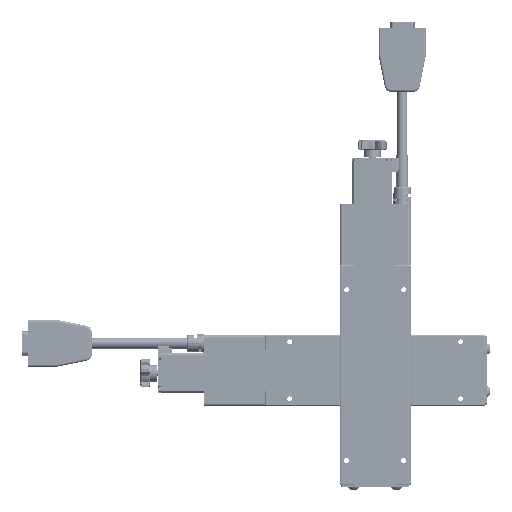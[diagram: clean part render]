
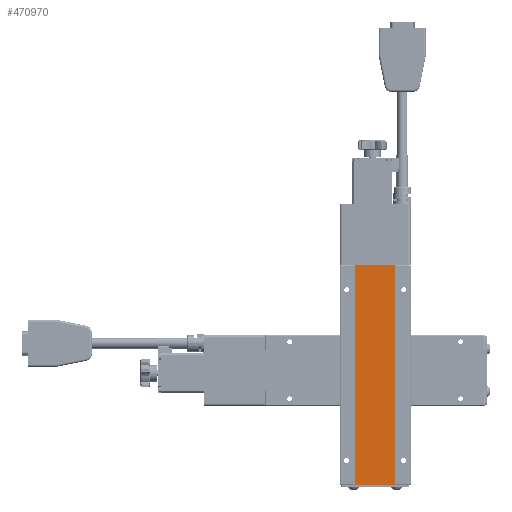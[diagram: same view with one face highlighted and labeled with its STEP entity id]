
A CAD part, front view. The second image highlights one B-rep face of the part: STEP entity #470970.
In plain terms, the highlighted planar face has unit normal (0, -1, 0).
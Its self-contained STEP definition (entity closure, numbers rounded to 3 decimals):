
#19950 = EDGE_CURVE ( 'NONE', #251373, #487911, #516954, .T. ) ;
#21911 = CARTESIAN_POINT ( 'NONE',  ( -14.3, 0.8, 0.2 ) ) ;
#36319 = DIRECTION ( 'NONE',  ( -1., 0., 0. ) ) ;
#76527 = LINE ( 'NONE', #191284, #696423 ) ;
#78190 = VERTEX_POINT ( 'NONE', #21911 ) ;
#80261 = CARTESIAN_POINT ( 'NONE',  ( -14.3, 0.8, 154.8 ) ) ;
#91121 = ORIENTED_EDGE ( 'NONE', *, *, #638685, .T. ) ;
#113370 = DIRECTION ( 'NONE',  ( 0., 0., 1. ) ) ;
#139386 = DIRECTION ( 'NONE',  ( 0., 0., -1. ) ) ;
#143350 = EDGE_CURVE ( 'NONE', #78190, #251373, #336820, .T. ) ;
#191284 = CARTESIAN_POINT ( 'NONE',  ( -14.3, 0.8, 0.2 ) ) ;
#201145 = CARTESIAN_POINT ( 'NONE',  ( -14.3, 0.8, 154.8 ) ) ;
#212038 = VERTEX_POINT ( 'NONE', #80261 ) ;
#213996 = PLANE ( 'NONE',  #625270 ) ;
#215292 = VECTOR ( 'NONE', #113370, 1000. ) ;
#237354 = EDGE_CURVE ( 'NONE', #212038, #78190, #76527, .T. ) ;
#241921 = ORIENTED_EDGE ( 'NONE', *, *, #143350, .T. ) ;
#251373 = VERTEX_POINT ( 'NONE', #561823 ) ;
#332448 = CARTESIAN_POINT ( 'NONE',  ( -14.3, 0.8, 154.8 ) ) ;
#336820 = LINE ( 'NONE', #510843, #446131 ) ;
#403536 = VECTOR ( 'NONE', #712323, 1000. ) ;
#432952 = ORIENTED_EDGE ( 'NONE', *, *, #237354, .T. ) ;
#446131 = VECTOR ( 'NONE', #507171, 1000. ) ;
#456979 = ORIENTED_EDGE ( 'NONE', *, *, #19950, .T. ) ;
#470970 = ADVANCED_FACE ( 'NONE', ( #543762 ), #213996, .F. ) ;
#477939 = EDGE_LOOP ( 'NONE', ( #432952, #241921, #456979, #91121 ) ) ;
#487911 = VERTEX_POINT ( 'NONE', #670106 ) ;
#507171 = DIRECTION ( 'NONE',  ( 1., 0., 0. ) ) ;
#510843 = CARTESIAN_POINT ( 'NONE',  ( -14.3, 0.8, 0.2 ) ) ;
#516954 = LINE ( 'NONE', #732072, #215292 ) ;
#543762 = FACE_OUTER_BOUND ( 'NONE', #477939, .T. ) ;
#552790 = LINE ( 'NONE', #201145, #403536 ) ;
#561823 = CARTESIAN_POINT ( 'NONE',  ( 14.3, 0.8, 0.2 ) ) ;
#625270 = AXIS2_PLACEMENT_3D ( 'NONE', #332448, #721563, #36319 ) ;
#638685 = EDGE_CURVE ( 'NONE', #487911, #212038, #552790, .T. ) ;
#670106 = CARTESIAN_POINT ( 'NONE',  ( 14.3, 0.8, 154.8 ) ) ;
#696423 = VECTOR ( 'NONE', #139386, 1000. ) ;
#712323 = DIRECTION ( 'NONE',  ( -1., 0., 0. ) ) ;
#721563 = DIRECTION ( 'NONE',  ( 0., 1., 0. ) ) ;
#732072 = CARTESIAN_POINT ( 'NONE',  ( 14.3, 0.8, 0.2 ) ) ;
